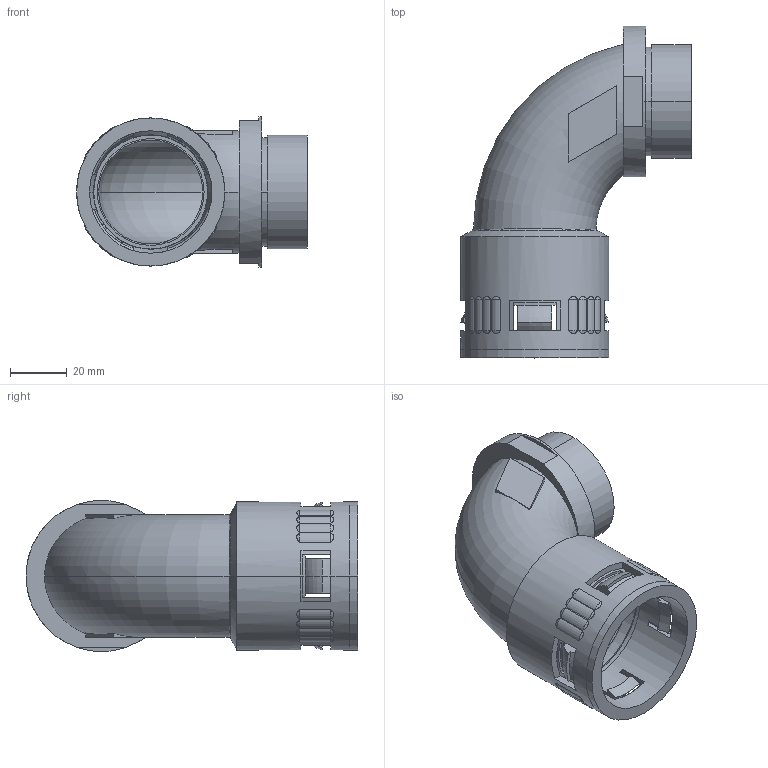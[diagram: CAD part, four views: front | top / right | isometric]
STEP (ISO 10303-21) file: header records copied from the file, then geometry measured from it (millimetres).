
FILE_DESCRIPTION (( 'STEP AP203' ), '1' );
FILE_NAME ('WQBW-M40-AD42.5.STEP', '2013-03-19T02:07:08', ( 'User' ), ( 'Microsoft' ), 'SwSTEP 2.0', 'SolidWorks 2010', '' );
FILE_SCHEMA (( 'CONFIG_CONTROL_DESIGN' ));
Length unit declared in the file: millimetre
Products named in the file (4): GFD-AD42.5; NSK-AD42.5; WQBW-M40-AD42.5; WQBW-M40-AD42.5-01 
Assembly tree (3 placements, depth 2):
  WQBW-M40-AD42.5
    GFD-AD42.5
    NSK-AD42.5
    WQBW-M40-AD42.5-01 
Bounding box: 81 x 116.5 x 53 mm (x, y, z)
Volume: 63085.8 mm3; surface area: 54200.8 mm2
Topology: 3 solids, 4 shells, 315 faces, 764 edges, 476 vertices
Faces by surface type: plane 123, cone 79, cylinder 45, torus 36, bspline 32
Entity records: 12533 total; most frequent: CARTESIAN_POINT 4708, DIRECTION 1610, ORIENTED_EDGE 1528, EDGE_CURVE 764, AXIS2_PLACEMENT_3D 665, VERTEX_POINT 476, CIRCLE 376, EDGE_LOOP 358
